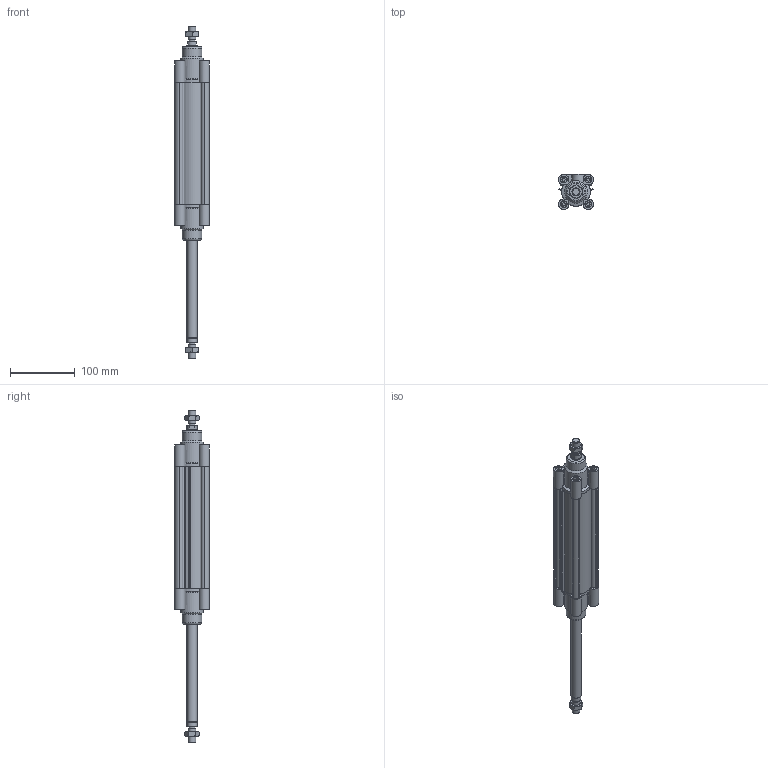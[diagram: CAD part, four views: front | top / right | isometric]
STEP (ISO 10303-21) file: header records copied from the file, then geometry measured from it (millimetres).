
FILE_DESCRIPTION((''),'2;1');
FILE_NAME('I:\Area Tecnica\Disegni\VARIE-3D\Componenti\ECOLIGHT\02\stp\139#_40_0150_02.iam.stp','2012-01-28T09:38:54',(''),(''),'Autodesk Inventor 2012','Autodesk Inventor 2012','');
FILE_SCHEMA(('AUTOMOTIVE_DESIGN { 1 0 10303 214 1 1 1 1 }'));
Length unit declared in the file: millimetre
Products named in the file (5): 139#_40_0150_02; CPL040_004-150; CPL040-001-01; CPL_40SP_0150; 1320_40_18F
Assembly tree (6 placements, depth 2):
  139#_40_0150_02
    CPL040_004-150
    CPL040-001-01  x2
    CPL_40SP_0150
    1320_40_18F  x2
Bounding box: 54 x 54 x 513 mm (x, y, z)
Volume: 404756.9 mm3; surface area: 174725.6 mm2
Topology: 6 solids, 6 shells, 351 faces, 860 edges, 564 vertices
Faces by surface type: plane 211, cylinder 98, cone 40, torus 2
Full cylindrical faces by diameter (mm): 5 x8, 5.5 x4, 8 x2, 10 x8, 10.5 x10, 10.8 x2, 11.6 x2, 12 x2, 15.5 x2, 16 x4, 30 x2, 35 x2, 40 x4
Entity records: 7104 total; most frequent: CARTESIAN_POINT 1295, DIRECTION 1162, ORIENTED_EDGE 1084, EDGE_CURVE 542, AXIS2_PLACEMENT_3D 413, VERTEX_POINT 380, VECTOR 336, LINE 336
